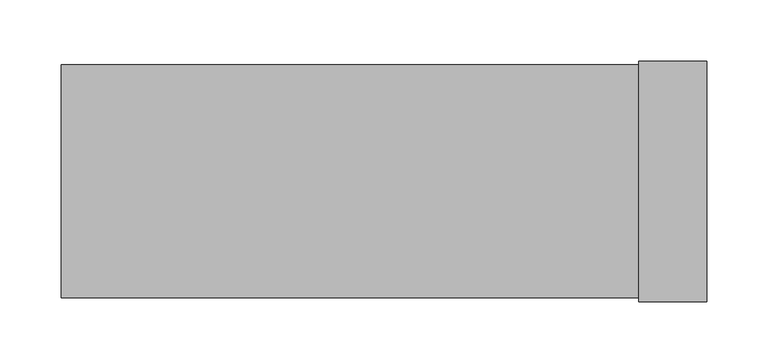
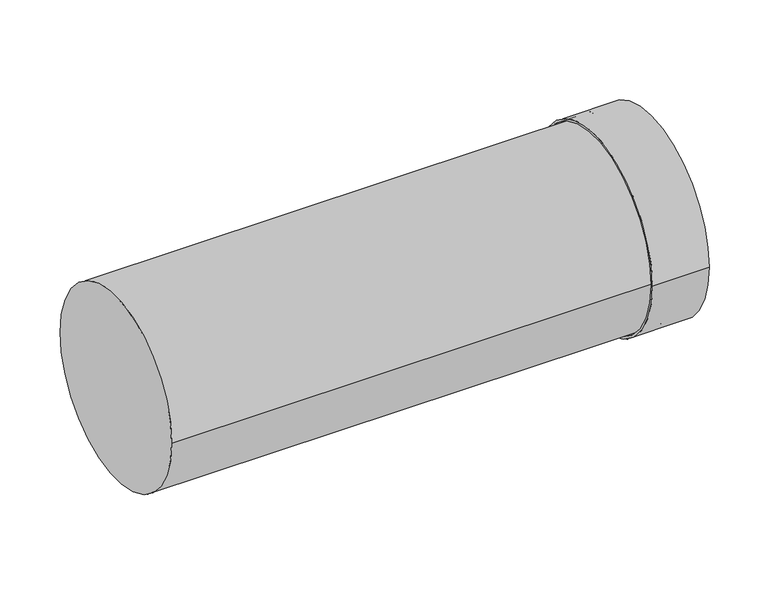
"""IFC4 building model written with IfcOpenShell, lengths in millimetres: duct fitting geometry, NLRS_57_DUF_UN_extension EPS_M&G : ø125 - ø200."""

from ifc_helpers import new_model, si_unit, point, frame, origin, origin_2d, place, context, project, spatial, polyline, circle_curve, trimmed, segment, composite_curve, outline, extrude, source, transform, mapped, element, save
from ifc_brep_helpers import plane_surface, cylinder_surface, revolved_surface, advanced_brep


def duct_fitting_e675f242(model_context):
    return source(origin(), model_context, "Body", "SolidModel", [
        advanced_brep(
        [(473.0, -98.5, 0.0), (473.0, 98.5, 0.0), (529.0, 98.5, 0.0), (529.0, -98.5, 0.0), (473.0, -96.5, 0.0), (473.0, 96.5, 0.0), (500.0, -96.5, 0.0), (500.0, 96.5, 0.0), (500.0, -94.5, 0.0), (500.0, 94.5, 0.0), (502.0, -96.5, 0.0), (502.0, 96.5, 0.0), (502.0, 94.5, 0.0), (502.0, -94.5, 0.0), (529.0, -96.5, 0.0), (529.0, 96.5, 0.0)],
        [
            (0, 1, circle_curve(frame((473.0, 0.0, 0.0), z_axis=(1.0, 0.0, 0.0), x_axis=(0.0, 1.0, 0.0)), 98.5)),
            (1, 2),
            (2, 3, circle_curve(frame((529.0, 0.0, 0.0), z_axis=(-1.0, 0.0, 0.0), x_axis=(0.0, 1.0, 0.0)), 98.5)),
            (3, 0),
            (1, 0, circle_curve(frame((473.0, 0.0, 0.0), z_axis=(1.0, 0.0, 0.0), x_axis=(0.0, 1.0, 0.0)), 98.5)),
            (3, 2, circle_curve(frame((529.0, 0.0, 0.0), z_axis=(-1.0, 0.0, 0.0), x_axis=(0.0, 1.0, 0.0)), 98.5)),
            (4, 5, circle_curve(frame((473.0, 0.0, 0.0), z_axis=(1.0, 0.0, 0.0), x_axis=(0.0, 1.0, 0.0)), 96.5)),
            (5, 1),
            (0, 4),
            (5, 4, circle_curve(frame((473.0, 0.0, 0.0), z_axis=(1.0, 0.0, 0.0), x_axis=(0.0, 1.0, 0.0)), 96.5)),
            (6, 7, circle_curve(frame((500.0, 0.0, 0.0), z_axis=(1.0, 0.0, 0.0), x_axis=(0.0, 1.0, 0.0)), 96.5)),
            (7, 5),
            (4, 6),
            (7, 6, circle_curve(frame((500.0, 0.0, 0.0), z_axis=(1.0, 0.0, 0.0), x_axis=(0.0, 1.0, 0.0)), 96.5)),
            (8, 9, circle_curve(frame((500.0, 0.0, 0.0), z_axis=(1.0, 0.0, 0.0), x_axis=(0.0, 1.0, 0.0)), 94.5)),
            (9, 7),
            (6, 8),
            (9, 8, circle_curve(frame((500.0, 0.0, 0.0), z_axis=(1.0, 0.0, 0.0), x_axis=(0.0, 1.0, 0.0)), 94.5)),
            (10, 11, circle_curve(frame((502.0, 0.0, 0.0), z_axis=(1.0, 0.0, 0.0), x_axis=(0.0, 1.0, 0.0)), 96.5)),
            (11, 12),
            (12, 13, circle_curve(frame((502.0, 0.0, 0.0), z_axis=(-1.0, 0.0, 0.0), x_axis=(0.0, 1.0, 0.0)), 94.5)),
            (13, 10),
            (11, 10, circle_curve(frame((502.0, 0.0, 0.0), z_axis=(1.0, 0.0, 0.0), x_axis=(0.0, 1.0, 0.0)), 96.5)),
            (13, 12, circle_curve(frame((502.0, 0.0, 0.0), z_axis=(-1.0, 0.0, 0.0), x_axis=(0.0, 1.0, 0.0)), 94.5)),
            (14, 15, circle_curve(frame((529.0, 0.0, 0.0), z_axis=(1.0, 0.0, 0.0), x_axis=(0.0, 1.0, 0.0)), 96.5)),
            (15, 11),
            (10, 14),
            (15, 14, circle_curve(frame((529.0, 0.0, 0.0), z_axis=(1.0, 0.0, 0.0), x_axis=(0.0, 1.0, 0.0)), 96.5)),
            (2, 15),
            (14, 3),
            (12, 9),
            (8, 13),
        ],
        [
            cylinder_surface(frame((2476.5, 0.0, 0.0), z_axis=(-1.0, 0.0, 0.0), x_axis=(0.0, 1.0, 0.0)), 98.5),
            plane_surface(frame((473.0, 0.0, 0.0), z_axis=(-1.0, 0.0, 0.0), x_axis=(0.0, 1.0, 0.0))),
            revolved_surface(polyline([(473.0, 96.5, 0.0), (500.0, 96.5, 0.0)]), (2476.5, 0.0, 0.0), (-1.0, 0.0, 0.0)),
            plane_surface(frame((500.0, 0.0, 0.0), z_axis=(-1.0, 0.0, 0.0), x_axis=(0.0, 1.0, 0.0))),
            plane_surface(frame((502.0, 0.0, 0.0), z_axis=(1.0, 0.0, 0.0), x_axis=(0.0, 1.0, 0.0))),
            revolved_surface(polyline([(502.0, 96.5, 0.0), (529.0, 96.5, 0.0)]), (2476.5, 0.0, 0.0), (-1.0, 0.0, 0.0)),
            plane_surface(frame((529.0, 0.0, 0.0), z_axis=(1.0, 0.0, 0.0), x_axis=(0.0, 1.0, 0.0))),
            revolved_surface(polyline([(500.0, 94.5, 0.0), (502.0, 94.5, 0.0)]), (2476.5, 0.0, 0.0), (-1.0, 0.0, 0.0)),
        ],
        [
            (0, [[1, 2, 3, 4]]),
            (0, [[5, -4, 6, -2]]),
            (1, [[7, 8, -1, 9]]),
            (1, [[10, -9, -5, -8]]),
            (2, [[11, 12, -7, 13]]),
            (2, [[14, -13, -10, -12]]),
            (3, [[15, 16, -11, 17]]),
            (3, [[18, -17, -14, -16]]),
            (4, [[19, 20, 21, 22]]),
            (4, [[23, -22, 24, -20]]),
            (5, [[25, 26, -19, 27]]),
            (5, [[28, -27, -23, -26]]),
            (6, [[-3, 29, -25, 30]]),
            (6, [[-6, -30, -28, -29]]),
            (7, [[-21, 31, -15, 32]]),
            (7, [[-24, -32, -18, -31]]),
        ],
    ),
        extrude(outline(composite_curve([segment(trimmed(circle_curve(origin_2d(), 95.5), [point((-95.5, 0.0))], [point((95.5, 0.0))], False, "CARTESIAN"), True, "CONTINUOUS"), segment(trimmed(circle_curve(origin_2d(), 95.5), [point((95.5, 0.0))], [point((-95.5, 0.0))], False, "CARTESIAN"), True, "CONTINUOUS")], self_intersect=False)), frame((0.0, 0.0, 0.0), z_axis=(1.0, 0.0, 0.0), x_axis=(0.0, 1.0, 0.0)), (0.0, 0.0, 1.0), 500.0),
    ])


if __name__ == "__main__":
    model = new_model("IFC4")
    model_context = context("Model", 3, world=origin())
    ifc_project = project(units=[si_unit("LENGTHUNIT", "METRE", prefix="MILLI")], contexts=[model_context])
    site = spatial("IfcSite", under=ifc_project)
    building = spatial("IfcBuilding", under=site)
    placement = place(None, origin())
    duct_fitting_shape = duct_fitting_e675f242(model_context)
    element("IfcDuctFitting", 1, ObjectType="NLRS_57_DUF_UN_extension EPS_M&G : ø125 - ø200", at=placement, inside=building, context=model_context, shape_type="MappedRepresentation", body=[
        mapped(duct_fitting_shape, transform((0.0, 0.0, 0.0), x_axis=(1.0, 0.0, 0.0), y_axis=(0.0, 1.0, 0.0), z_axis=(0.0, 0.0, 1.0))),
    ])
    save(model, "model.ifc")
